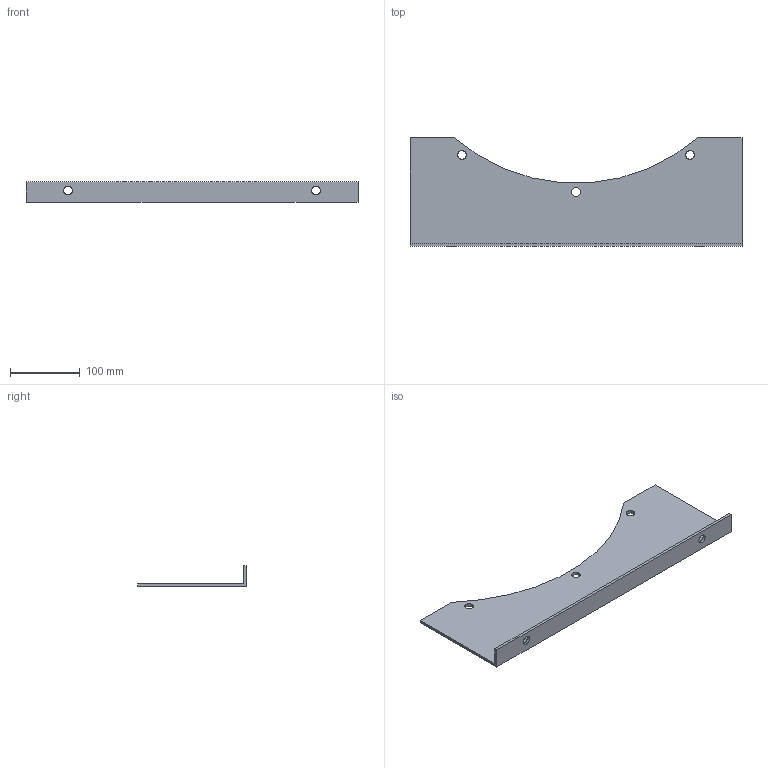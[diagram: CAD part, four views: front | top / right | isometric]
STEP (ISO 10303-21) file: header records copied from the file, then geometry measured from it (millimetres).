
FILE_DESCRIPTION(('STEP AP214'),'1');
FILE_NAME('accessory_5138879100.stp','2017-10-09T07:38:54',('TraceParts'),('TraceParts S.A.'),'Spatial InterOp 3D',' ',' ');
FILE_SCHEMA(('automotive_design'));
Length unit declared in the file: millimetre
Products named in the file (1): accessory_5138879100
Bounding box: 475 x 155 x 30 mm (x, y, z)
Volume: 279523.7 mm3; surface area: 145921.4 mm2
Topology: 1 solids, 1 shells, 20 faces, 54 edges, 36 vertices
Faces by surface type: cylinder 11, plane 9
Entity records: 836 total; most frequent: DIRECTION 118, CARTESIAN_POINT 111, ORIENTED_EDGE 108, EDGE_CURVE 54, AXIS2_PLACEMENT_3D 43, VERTEX_POINT 36, LINE 32, VECTOR 32
